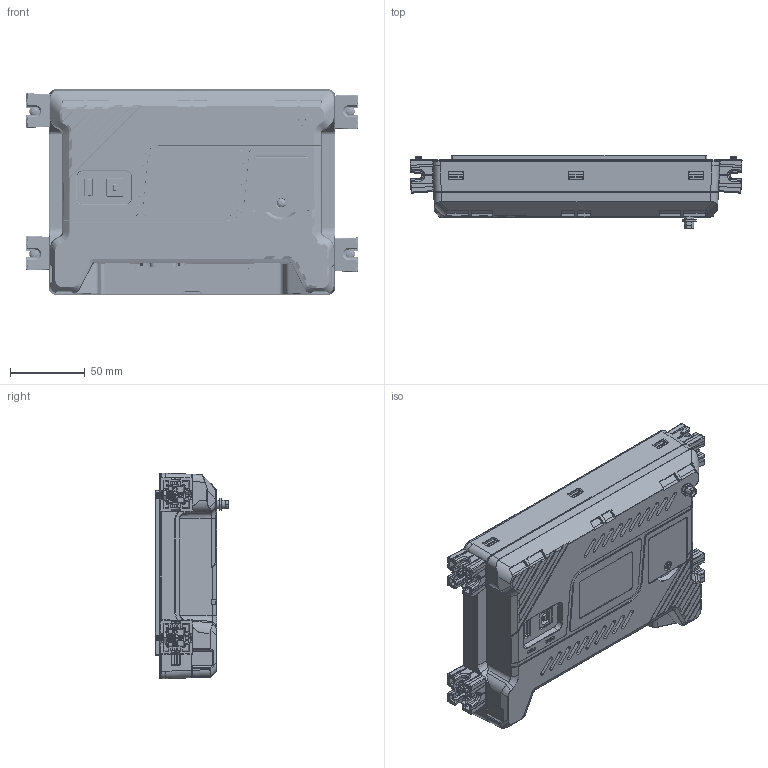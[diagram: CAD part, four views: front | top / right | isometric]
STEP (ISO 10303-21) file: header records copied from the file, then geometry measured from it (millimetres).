
FILE_DESCRIPTION((''),'2;1');
FILE_NAME('PI3070IG-SL','2026-08-13T19:07:31',('admin'),(''),'CREO PARAMETRIC BY PTC INC, 2018050','CREO PARAMETRIC BY PTC INC, 2018050','');
FILE_SCHEMA(('CONFIG_CONTROL_DESIGN'));
Products named in the file (1): PI3070IG-SL
Bounding box: 221.47 x 48.8 x 137.2 mm (x, y, z)
Volume: 878489.8 mm3; surface area: 165286.3 mm2
Topology: 1 solids, 29 shells, 5914 faces, 16484 edges, 10768 vertices
Faces by surface type: plane 3325, cylinder 1321, extrusion 645, bspline 348, torus 136, cone 111, sphere 28
Entity records: 220853 total; most frequent: CARTESIAN_POINT 76646, ORIENTED_EDGE 32916, DIRECTION 24773, EDGE_CURVE 16458, VECTOR 11171, VERTEX_POINT 10768, LINE 10526, AXIS2_PLACEMENT_3D 6801
